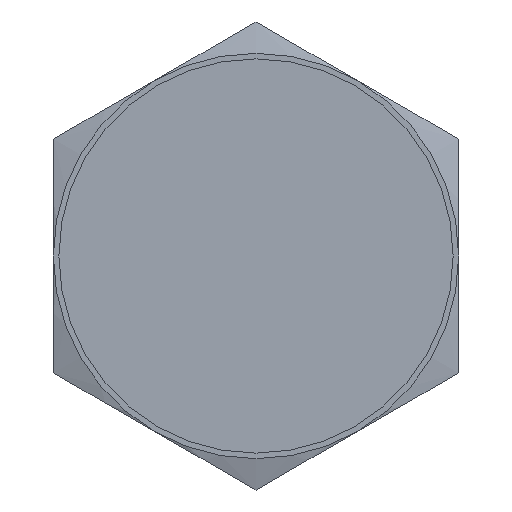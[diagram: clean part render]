
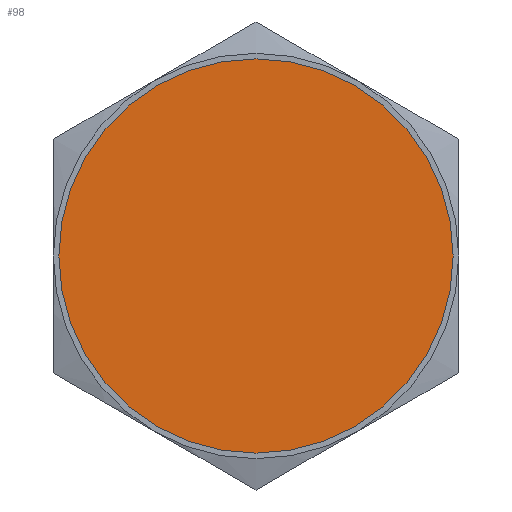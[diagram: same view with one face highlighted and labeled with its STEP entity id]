
A CAD part, front view. The second image highlights one B-rep face of the part: STEP entity #98.
In plain terms, the highlighted planar face has unit normal (0, -1, 0).
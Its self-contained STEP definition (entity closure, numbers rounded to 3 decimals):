
#98 = ADVANCED_FACE( '', ( #156 ), #157, .T. );
#156 = FACE_OUTER_BOUND( '', #228, .T. );
#157 = PLANE( '', #229 );
#228 = EDGE_LOOP( '', ( #417, #418 ) );
#229 = AXIS2_PLACEMENT_3D( '', #419, #420, #421 );
#417 = ORIENTED_EDGE( '', *, *, #515, .F. );
#418 = ORIENTED_EDGE( '', *, *, #557, .F. );
#419 = CARTESIAN_POINT( '', ( 2.432, -4., 0. ) );
#420 = DIRECTION( '', ( 0., -1., 0. ) );
#421 = DIRECTION( '', ( -1., 0., 0. ) );
#515 = EDGE_CURVE( '', #602, #605, #606, .T. );
#557 = EDGE_CURVE( '', #605, #602, #669, .T. );
#602 = VERTEX_POINT( '', #722 );
#605 = VERTEX_POINT( '', #726 );
#606 = CIRCLE( '', #727, 4.864 );
#669 = CIRCLE( '', #1013, 4.864 );
#722 = CARTESIAN_POINT( '', ( 4.864, -4., 0. ) );
#726 = CARTESIAN_POINT( '', ( -4.864, -4., 0. ) );
#727 = AXIS2_PLACEMENT_3D( '', #1061, #1062, #1063 );
#1013 = AXIS2_PLACEMENT_3D( '', #1101, #1102, #1103 );
#1061 = CARTESIAN_POINT( '', ( 0., -4., 0. ) );
#1062 = DIRECTION( '', ( 0., 1., 0. ) );
#1063 = DIRECTION( '', ( 1., 0., 0. ) );
#1101 = CARTESIAN_POINT( '', ( 0., -4., 0. ) );
#1102 = DIRECTION( '', ( 0., 1., 0. ) );
#1103 = DIRECTION( '', ( 1., 0., 0. ) );
